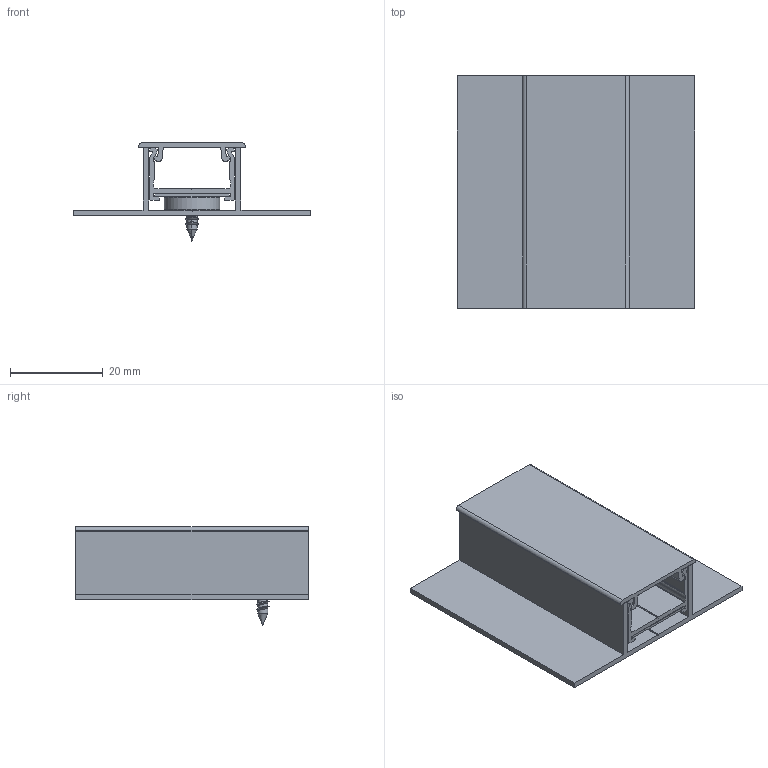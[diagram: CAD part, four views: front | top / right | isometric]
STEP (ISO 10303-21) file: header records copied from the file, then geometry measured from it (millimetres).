
FILE_DESCRIPTION (( 'STEP AP214' ), '1' );
FILE_NAME ('Ghost 2Completo 2022.STEP', '2022-02-18T08:39:05', ( '' ), ( '' ), 'SwSTEP 2.0', 'SolidWorks 2021', '' );
FILE_SCHEMA (( 'AUTOMOTIVE_DESIGN' ));
Length unit declared in the file: millimetre
Products named in the file (1): Ghost 2Completo 2022
Bounding box: 51.1 x 50 x 21.2 mm (x, y, z)
Volume: 8956.6 mm3; surface area: 17749 mm2
Topology: 6 solids, 6 shells, 250 faces, 694 edges, 452 vertices
Faces by surface type: plane 117, cylinder 88, cone 33, torus 12
Entity records: 11097 total; most frequent: CARTESIAN_POINT 1913, ORIENTED_EDGE 1380, DIRECTION 1314, EDGE_CURVE 690, AXIS2_PLACEMENT_3D 467, VERTEX_POINT 452, LINE 380, VECTOR 380
